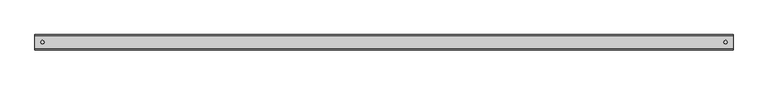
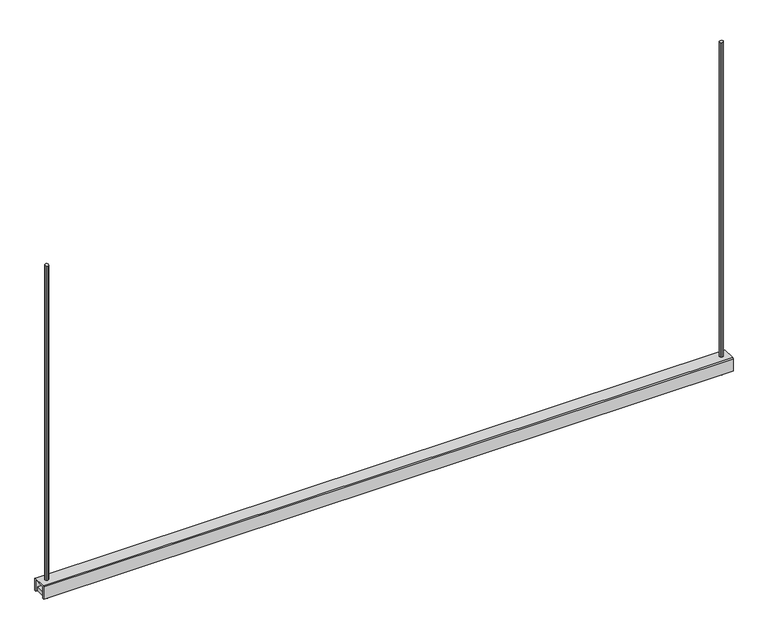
"""IFC4 building model written with IfcOpenShell, lengths in millimetres: proxy geometry, Beared-Hanger : BearedHanger."""

from ifc_helpers import new_model, si_unit, frame, origin, place, context, project, spatial, polyline, outline, extrude, source, transform, mapped, element, save


def mechanical_equipment_aa0085ae(model_context):
    return source(origin(), model_context, "Body", "SweptSolid", [
        extrude(outline(polyline([(884.3094896, -17.3962402), (884.3094896, 16.7883301), (914.1263841, 16.7883301), (914.1263841, -17.3962402), (884.3094896, -17.3962402)])), frame((0.0, 0.0, -923.4280922), z_axis=(0.0, 0.0, 1.0), x_axis=(1.0, 0.0, 0.0)), (0.0, 0.0, 1.0), 10.0),
        extrude(outline(polyline([(899.2179369, 5.0), (902.7530931, 3.5351562), (904.2185472, 0.0), (902.7530931, -3.5351563), (899.2179369, -5.0), (895.6827806, -3.5351563), (894.2179369, 0.0), (895.6827806, 3.5351562), (899.2179369, 5.0)])), frame((0.0, 0.0, -937.0126869), z_axis=(0.0, 0.0, 1.0), x_axis=(1.0, 0.0, 0.0)), (0.0, 0.0, 1.0), 937.0126869),
        extrude(outline(polyline([(-884.3094896, 16.7883301), (-884.3094896, -17.3962402), (-914.1263841, -17.3962402), (-914.1263841, 16.7883301), (-884.3094896, 16.7883301)])), frame((0.0, 0.0, -923.4280922), z_axis=(0.0, 0.0, 1.0), x_axis=(1.0, 0.0, 0.0)), (0.0, 0.0, 1.0), 10.0),
        extrude(outline(polyline([(-899.2179369, 5.0), (-895.6827806, 3.5351563), (-894.2179369, 0.0), (-895.6827806, -3.5351562), (-899.2179369, -5.0), (-902.7530931, -3.5351562), (-904.2185472, 0.0), (-902.7530931, 3.5351563), (-899.2179369, 5.0)])), frame((0.0, 0.0, -937.0126869), z_axis=(0.0, 0.0, 1.0), x_axis=(1.0, 0.0, 0.0)), (0.0, 0.0, 1.0), 937.0126869),
        extrude(outline(polyline([(-17.8259277, -887.0126869), (17.1740723, -887.0126869), (19.6740723, -889.5123817), (19.6740723, -923.4280922), (16.7883301, -923.4280922), (16.7883301, -890.0125648), (-17.3962402, -890.0125648), (-17.3962402, -923.4280922), (-20.3259277, -923.4280922), (-20.3259277, -889.5123817), (-17.8259277, -887.0126869)])), frame((-919.0589905, 0.0, 0.0), z_axis=(1.0, 0.0, 0.0), x_axis=(0.0, 1.0, 0.0)), (0.0, 0.0, 1.0), 1838.117981),
    ])


if __name__ == "__main__":
    model = new_model("IFC4")
    model_context = context("Model", 3, world=origin())
    ifc_project = project(units=[si_unit("LENGTHUNIT", "METRE", prefix="MILLI")], contexts=[model_context])
    site = spatial("IfcSite", under=ifc_project)
    building = spatial("IfcBuilding", under=site)
    placement = place(None, origin())
    mechanical_equipment_shape = mechanical_equipment_aa0085ae(model_context)
    element("IfcBuildingElementProxy", 1, Name="Beared-Hanger : BearedHanger", ObjectType="Beared-Hanger : BearedHanger", at=placement, inside=building, context=model_context, shape_type="MappedRepresentation", body=[
        mapped(mechanical_equipment_shape, transform((0.0, 0.0, 0.0), x_axis=(1.0, 0.0, 0.0), y_axis=(0.0, 1.0, 0.0), z_axis=(0.0, 0.0, 1.0))),
    ])
    save(model, "model.ifc")
